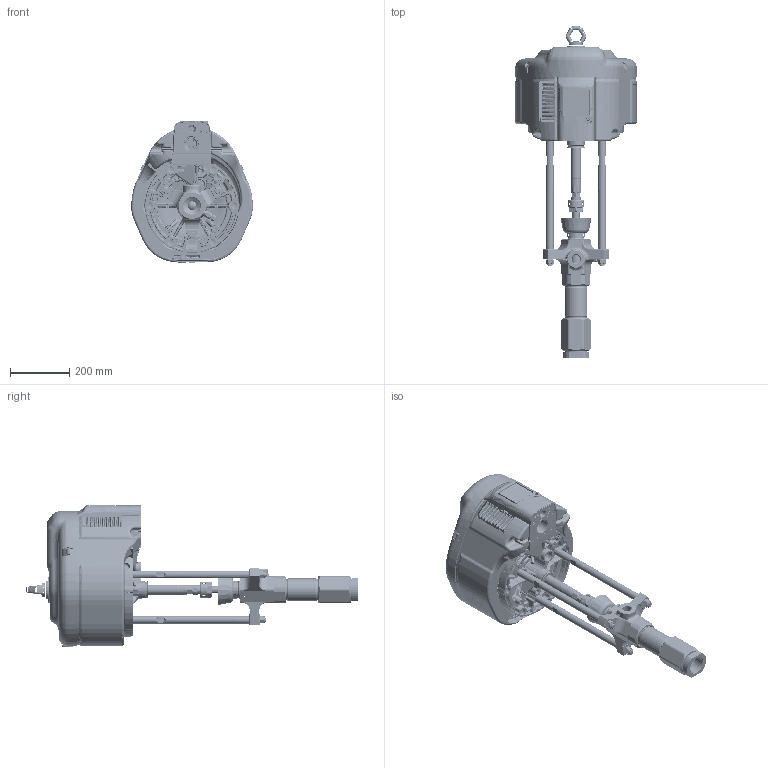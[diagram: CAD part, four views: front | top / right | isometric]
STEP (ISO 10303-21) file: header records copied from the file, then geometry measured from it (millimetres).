
FILE_DESCRIPTION((''),'2;1');
FILE_NAME('P57LSS-EN-C_PRT','2020-05-28T13:58:37',('qusrh3'),(''),'CREO PARAMETRIC BY PTC INC, 2019030','CREO PARAMETRIC BY PTC INC, 2019030','');
FILE_SCHEMA(('CONFIG_CONTROL_DESIGN'));
Products named in the file (1): P57LSS-EN-C_PRT
Bounding box: 410.21 x 1119.35 x 480.01 mm (x, y, z)
Surface area: 3586626.7 mm2 (no closed solid volume)
Topology: 0 solids, 712 shells, 6205 faces, 26663 edges, 20237 vertices
Faces by surface type: plane 1872, cylinder 1594, bspline 974, torus 890, cone 796, sphere 58, extrusion 21
Entity records: 358426 total; most frequent: CARTESIAN_POINT 169287, ORIENTED_EDGE 36453, DIRECTION 33474, EDGE_CURVE 26640, VERTEX_POINT 20237, AXIS2_PLACEMENT_3D 12891, B_SPLINE_CURVE_WITH_KNOTS 11309, VECTOR 7692
